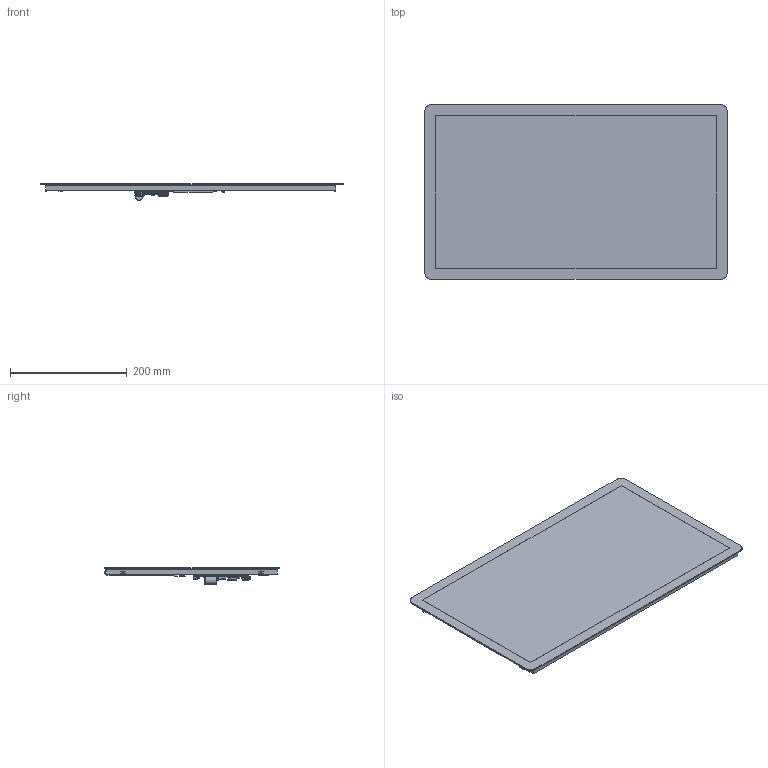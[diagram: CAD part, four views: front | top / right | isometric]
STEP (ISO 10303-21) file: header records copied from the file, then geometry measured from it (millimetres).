
FILE_DESCRIPTION((''),'2;1');
FILE_NAME('21_5-FHD-LCD_ASM','2025-04-23T19:57:24',('xiaojisheng'),(''),'CREO PARAMETRIC BY PTC INC, 2021063','CREO PARAMETRIC BY PTC INC, 2021063','');
FILE_SCHEMA(('CONFIG_CONTROL_DESIGN','SHAPE_APPEARANCE_LAYERS_GROUPS'));
Products named in the file (241): HBZ215FH10B; HBZ215FH10B-TP; HBZ215FH10B-TP_PCB; HBZ215FH10B-TP_ASM; BOARD; RESC1608_0603_; R582_ASM; R19_ASM; CAPC1608_0603_; C300_ASM; R1221_ASM; R752_ASM; R652_ASM; R633_ASM; R632_ASM; R581_ASM; EXTRUDED-19344; 1601049408_ASM; EXTRUDED-19716; 761277408_ASM; EXTRUDED-20088; 761277272_ASM; R361_ASM; R128_ASM; R122_ASM; R51_ASM; R26_ASM; EXTRUDED-20607; 681457424_ASM; EXTRUDED-20979; 1337276752_ASM; Q44_ASM; EXTRUDED-21396; 761279176_ASM; EXTRUDED-21768; 1601047096_ASM; Q7_ASM; EXTRUDED-22190; 681457560_ASM; Q3_ASM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
Assembly tree (463 placements, depth 6):
  21_5-FHD-LCD_ASM
    HBZ215FH10B-TP_ASM
      HBZ215FH10B
      HBZ215FH10B-TP
      HBZ215FH10B-TP_PCB
    21_5INCH_FHD_LCD-PCBA_ASM
      PCB_ASM
        BOARD
        R582_ASM
          RESC1608_0603_
        R19_ASM
          RESC1608_0603_
        C300_ASM
          CAPC1608_0603_
        R1221_ASM
          RESC1608_0603_
        R752_ASM
          RESC1608_0603_
        R652_ASM
          RESC1608_0603_
        R633_ASM
          RESC1608_0603_
        R632_ASM
          RESC1608_0603_
        R581_ASM
          RESC1608_0603_
        R361_ASM
          1601049408_ASM
            EXTRUDED-19344
          761277408_ASM
            EXTRUDED-19716
          761277272_ASM
            EXTRUDED-20088
        R128_ASM
          RESC1608_0603_
        R122_ASM
          RESC1608_0603_
        R51_ASM
          RESC1608_0603_
        R26_ASM
          RESC1608_0603_
        Q44_ASM
          681457424_ASM  x3
            EXTRUDED-20607
          1337276752_ASM
            EXTRUDED-20979
        Q7_ASM
          761279176_ASM  x3
            EXTRUDED-21396
          1601047096_ASM
            EXTRUDED-21768
        Q3_ASM
          681457424_ASM  x3
            EXTRUDED-20607
          681457560_ASM
            EXTRUDED-22190
        LC-Q1_ASM
          681457424_ASM  x3
            EXTRUDED-20607
          681457560_ASM
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Bounding box: 516.58 x 298.2 x 28.2 mm (x, y, z)
Volume: 1410999.8 mm3; surface area: 669071.3 mm2
Topology: 259 solids, 263 shells, 12184 faces, 29577 edges, 16734 vertices
Faces by surface type: plane 6420, cylinder 4311, sphere 1398, cone 25, torus 20, bspline 10
Entity records: 174774 total; most frequent: CARTESIAN_POINT 25804, DIRECTION 23654, ORIENTED_EDGE 22950, EDGE_CURVE 11479, VECTOR 9418, LINE 9418, PRESENTATION_STYLE_ASSIGNMENT 8453, STYLED_ITEM 8225
